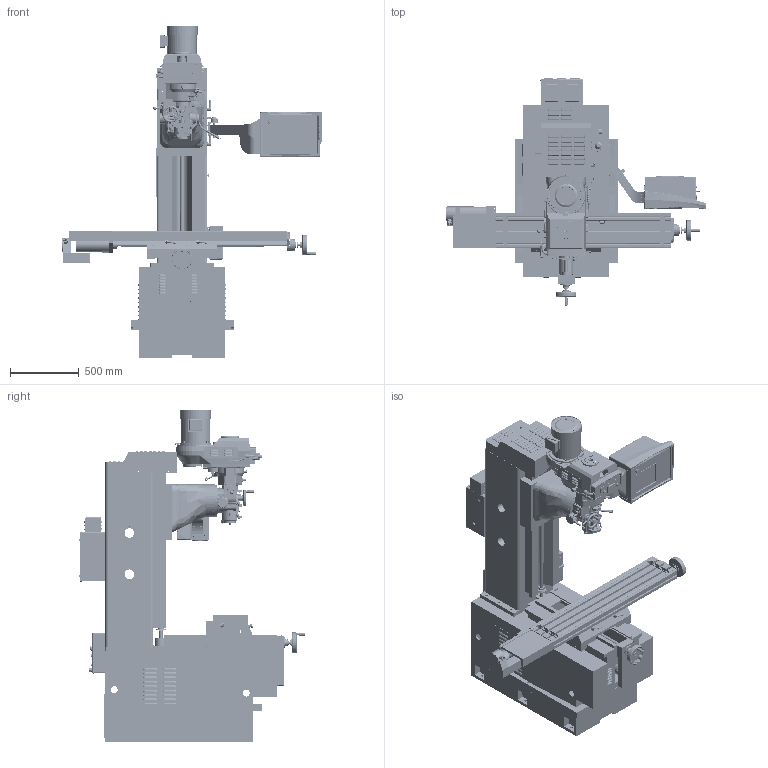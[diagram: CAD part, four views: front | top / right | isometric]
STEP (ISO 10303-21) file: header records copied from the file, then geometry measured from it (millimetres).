
FILE_DESCRIPTION( ( 'Unknown' ), '1' );
FILE_NAME( '//SERVERENG2/Data/DRAWINGS/Simplified Machine Assemblies/DPMSX3/DPMSX3.stp', 'Unknown', ( 'Unknown' ), ( 'Unknown' ), 'PSStep 14.0', 'Unknown', ' ' );
FILE_SCHEMA( ( 'AUTOMOTIVE_DESIGN { 1 0 10303 214 1 1 1 1 }' ) );
Length unit declared in the file: millimetre
Products named in the file (260): Assem1; -oa0
Assembly tree (259 placements, depth 2):
  Assem1
    -oa0
    -oa0
    -oa0
    -oa0
    -oa0
    -oa0
    -oa0
    -oa0
    -oa0
    -oa0
    -oa0
    -oa0
    -oa0
    -oa0
    -oa0
    -oa0
    -oa0
    -oa0
    -oa0
    -oa0
    -oa0
    -oa0
    -oa0
    -oa0
    -oa0
    -oa0
    -oa0
    -oa0
    -oa0
    -oa0
    -oa0
    -oa0
    -oa0
    -oa0
    -oa0
    -oa0
    -oa0
    -oa0
    -oa0
    -oa0
    -oa0
    -oa0
    -oa0
    -oa0
    -oa0
    -oa0
    -oa0
    -oa0
    -oa0
    -oa0
    -oa0
    -oa0
    -oa0
    -oa0
    -oa0
    -oa0
    -oa0
    -oa0
    -oa0
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Bounding box: 1898.36 x 1651 x 2415.08 mm (x, y, z)
Surface area: 21342124.2 mm2 (no closed solid volume)
Topology: 0 solids, 3445 shells, 3446 faces, 22173 edges, 21568 vertices
Faces by surface type: plane 1590, cylinder 1190, bspline 199, cone 180, sphere 179, torus 100, extrusion 4, revolution 4
Full cylindrical faces by diameter (mm): 4.76 x1, 6.35 x6, 6.411 x1, 6.7 x1, 6.8 x6, 7 x2, 7.036 x1, 7.112 x1, 7.5 x2, 7.62 x1, 7.925 x1, 7.938 x1, 7.95 x2, 8 x2, 8.122 x1, 8.3 x1, 8.64 x1, 9.095 x5, 9.144 x1, 9.5 x7, 9.525 x6, 9.652 x2, 9.7 x2, 10 x11, 10.16 x2, 10.2 x2, 10.465 x1, 10.668 x4, 10.678 x1, 10.744 x1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
Entity records: 251391 total; most frequent: CARTESIAN_POINT 82140, DIRECTION 35825, ORIENTED_EDGE 21409, EDGE_CURVE 21409, VERTEX_POINT 21409, AXIS2_PLACEMENT_3D 12465, VECTOR 10891, LINE 10887
